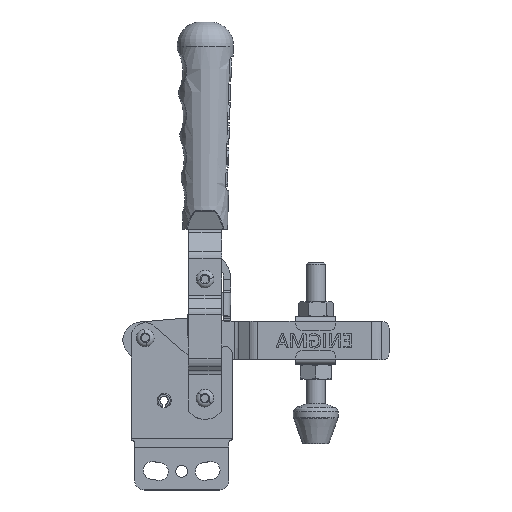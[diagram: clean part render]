
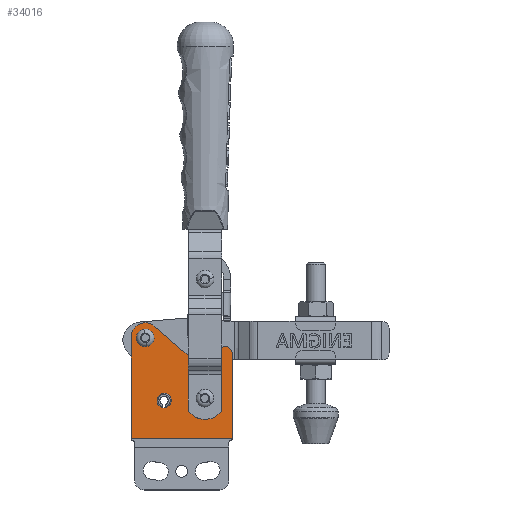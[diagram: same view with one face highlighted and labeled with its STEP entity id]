
A CAD part, top view. The second image highlights one B-rep face of the part: STEP entity #34016.
In plain terms, the highlighted planar face has unit normal (0, 0, 1) as drawn and (0, 0, -1) by its records, which use the part's own axes.
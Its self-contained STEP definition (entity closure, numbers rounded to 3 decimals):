
#286 = ORIENTED_EDGE ( 'NONE', *, *, #31214, .F. ) ;
#407 = DIRECTION ( 'NONE',  ( 1., 0., 0. ) ) ;
#490 = CIRCLE ( 'NONE', #33522, 5. ) ;
#514 = CARTESIAN_POINT ( 'NONE',  ( -36.983, -42.846, 0. ) ) ;
#980 = CIRCLE ( 'NONE', #9149, 3. ) ;
#1157 = DIRECTION ( 'NONE',  ( 1., 0., 0. ) ) ;
#1693 = VERTEX_POINT ( 'NONE', #35627 ) ;
#2179 = ORIENTED_EDGE ( 'NONE', *, *, #23024, .F. ) ;
#2325 = CARTESIAN_POINT ( 'NONE',  ( -25.331, -25.65, 0. ) ) ;
#2378 = DIRECTION ( 'NONE',  ( 0., 1., 0. ) ) ;
#2533 = DIRECTION ( 'NONE',  ( -0.754, -0.657, 0. ) ) ;
#2737 = DIRECTION ( 'NONE',  ( 0., 0., -1. ) ) ;
#3029 = EDGE_CURVE ( 'NONE', #14983, #3087, #490, .T. ) ;
#3087 = VERTEX_POINT ( 'NONE', #18160 ) ;
#3337 = DIRECTION ( 'NONE',  ( 1., 0., 0. ) ) ;
#3400 = LINE ( 'NONE', #38213, #34929 ) ;
#3701 = VECTOR ( 'NONE', #20879, 1000. ) ;
#3758 = PLANE ( 'NONE',  #24876 ) ;
#3978 = FACE_BOUND ( 'NONE', #9574, .T. ) ;
#4136 = CARTESIAN_POINT ( 'NONE',  ( 0., 0.4, 0. ) ) ;
#5079 = CARTESIAN_POINT ( 'NONE',  ( -29.331, -25.65, 0. ) ) ;
#5459 = CIRCLE ( 'NONE', #27645, 4. ) ;
#5481 = DIRECTION ( 'NONE',  ( 1., 0., 0. ) ) ;
#5523 = CARTESIAN_POINT ( 'NONE',  ( -37., -6.619, 0. ) ) ;
#5919 = VERTEX_POINT ( 'NONE', #514 ) ;
#6090 = VERTEX_POINT ( 'NONE', #17991 ) ;
#6427 = ORIENTED_EDGE ( 'NONE', *, *, #15047, .F. ) ;
#7088 = EDGE_CURVE ( 'NONE', #14708, #14983, #37142, .T. ) ;
#7115 = FACE_BOUND ( 'NONE', #20669, .T. ) ;
#7481 = ORIENTED_EDGE ( 'NONE', *, *, #32256, .T. ) ;
#7911 = DIRECTION ( 'NONE',  ( 0., 0., 1. ) ) ;
#8019 = AXIS2_PLACEMENT_3D ( 'NONE', #18089, #37934, #41308 ) ;
#8036 = LINE ( 'NONE', #20664, #3701 ) ;
#8855 = CARTESIAN_POINT ( 'NONE',  ( -26.707, -3.331, 0. ) ) ;
#9001 = DIRECTION ( 'NONE',  ( 1., 0., 0. ) ) ;
#9149 = AXIS2_PLACEMENT_3D ( 'NONE', #12624, #34815, #38399 ) ;
#9268 = CARTESIAN_POINT ( 'NONE',  ( -34., -6.619, 0. ) ) ;
#9409 = EDGE_CURVE ( 'NONE', #25306, #14708, #18543, .T. ) ;
#9574 = EDGE_LOOP ( 'NONE', ( #40581, #21637 ) ) ;
#10230 = CARTESIAN_POINT ( 'NONE',  ( -3.943, 4.922, 0. ) ) ;
#10418 = EDGE_CURVE ( 'NONE', #38473, #22878, #13402, .T. ) ;
#10512 = DIRECTION ( 'NONE',  ( 0., 0., 1. ) ) ;
#10799 = ORIENTED_EDGE ( 'NONE', *, *, #26637, .T. ) ;
#11359 = EDGE_LOOP ( 'NONE', ( #15519, #6427, #14612, #2179, #22628, #41477, #37119, #15024, #20459, #286 ) ) ;
#11720 = VERTEX_POINT ( 'NONE', #41317 ) ;
#12032 = CIRCLE ( 'NONE', #8019, 1. ) ;
#12624 = CARTESIAN_POINT ( 'NONE',  ( -8., -26.631, 0. ) ) ;
#13228 = VECTOR ( 'NONE', #2378, 1000. ) ;
#13309 = CIRCLE ( 'NONE', #32877, 1. ) ;
#13402 = CIRCLE ( 'NONE', #36356, 2.5 ) ;
#13418 = DIRECTION ( 'NONE',  ( 0., 0., 1. ) ) ;
#13618 = VERTEX_POINT ( 'NONE', #5079 ) ;
#13970 = DIRECTION ( 'NONE',  ( 1., 0., 0. ) ) ;
#14205 = AXIS2_PLACEMENT_3D ( 'NONE', #25004, #37924, #9001 ) ;
#14612 = ORIENTED_EDGE ( 'NONE', *, *, #19758, .F. ) ;
#14708 = VERTEX_POINT ( 'NONE', #25749 ) ;
#14791 = DIRECTION ( 'NONE',  ( 1., 0., 0. ) ) ;
#14983 = VERTEX_POINT ( 'NONE', #40054 ) ;
#15024 = ORIENTED_EDGE ( 'NONE', *, *, #36126, .F. ) ;
#15047 = EDGE_CURVE ( 'NONE', #6090, #5919, #12032, .T. ) ;
#15202 = DIRECTION ( 'NONE',  ( 1., 0., 0. ) ) ;
#15519 = ORIENTED_EDGE ( 'NONE', *, *, #29842, .T. ) ;
#16068 = CIRCLE ( 'NONE', #32940, 4. ) ;
#16550 = VECTOR ( 'NONE', #2533, 1000. ) ;
#17090 = CARTESIAN_POINT ( 'NONE',  ( -25.331, -25.65, 0. ) ) ;
#17433 = EDGE_CURVE ( 'NONE', #13618, #37233, #5459, .T. ) ;
#17745 = CARTESIAN_POINT ( 'NONE',  ( -21.331, -25.65, 0. ) ) ;
#17991 = CARTESIAN_POINT ( 'NONE',  ( -37., -42.664, 0. ) ) ;
#18051 = CIRCLE ( 'NONE', #28826, 3. ) ;
#18089 = CARTESIAN_POINT ( 'NONE',  ( -36., -42.664, 0. ) ) ;
#18160 = CARTESIAN_POINT ( 'NONE',  ( -31.265, -5.386, 0. ) ) ;
#18288 = EDGE_CURVE ( 'NONE', #1693, #26937, #38232, .T. ) ;
#18379 = EDGE_LOOP ( 'NONE', ( #23728, #10799 ) ) ;
#18543 = LINE ( 'NONE', #31876, #16550 ) ;
#18777 = DIRECTION ( 'NONE',  ( 0., 0., 1. ) ) ;
#19758 = EDGE_CURVE ( 'NONE', #39912, #6090, #8036, .T. ) ;
#19938 = CARTESIAN_POINT ( 'NONE',  ( 2.5, 0., 0. ) ) ;
#20459 = ORIENTED_EDGE ( 'NONE', *, *, #28463, .F. ) ;
#20664 = CARTESIAN_POINT ( 'NONE',  ( -37., -42.664, 0. ) ) ;
#20669 = EDGE_LOOP ( 'NONE', ( #7481, #27199 ) ) ;
#20879 = DIRECTION ( 'NONE',  ( 0., -1., 0. ) ) ;
#21518 = CARTESIAN_POINT ( 'NONE',  ( 0., 0., 0. ) ) ;
#21637 = ORIENTED_EDGE ( 'NONE', *, *, #22003, .T. ) ;
#21722 = DIRECTION ( 'NONE',  ( 0., 0., 1. ) ) ;
#22003 = EDGE_CURVE ( 'NONE', #22878, #38473, #40930, .T. ) ;
#22628 = ORIENTED_EDGE ( 'NONE', *, *, #3029, .F. ) ;
#22722 = DIRECTION ( 'NONE',  ( 0., 0., 1. ) ) ;
#22878 = VERTEX_POINT ( 'NONE', #36534 ) ;
#23024 = EDGE_CURVE ( 'NONE', #3087, #39912, #18051, .T. ) ;
#23310 = FACE_OUTER_BOUND ( 'NONE', #11359, .T. ) ;
#23728 = ORIENTED_EDGE ( 'NONE', *, *, #18288, .T. ) ;
#23787 = DIRECTION ( 'NONE',  ( 0., 0., 1. ) ) ;
#24690 = LINE ( 'NONE', #37631, #13228 ) ;
#24771 = VERTEX_POINT ( 'NONE', #38235 ) ;
#24876 = AXIS2_PLACEMENT_3D ( 'NONE', #32481, #35628, #33285 ) ;
#25004 = CARTESIAN_POINT ( 'NONE',  ( -23.984, 1.871, 0. ) ) ;
#25072 = DIRECTION ( 'NONE',  ( -1., 0., 0. ) ) ;
#25247 = CARTESIAN_POINT ( 'NONE',  ( 5.983, -42.846, 0. ) ) ;
#25306 = VERTEX_POINT ( 'NONE', #10230 ) ;
#25651 = CARTESIAN_POINT ( 'NONE',  ( 0., 0., 0. ) ) ;
#25749 = CARTESIAN_POINT ( 'NONE',  ( -16.839, -6.323, 0. ) ) ;
#26624 = VERTEX_POINT ( 'NONE', #25247 ) ;
#26637 = EDGE_CURVE ( 'NONE', #26937, #1693, #980, .T. ) ;
#26789 = DIRECTION ( 'NONE',  ( 1., 0., 0. ) ) ;
#26937 = VERTEX_POINT ( 'NONE', #31607 ) ;
#27199 = ORIENTED_EDGE ( 'NONE', *, *, #17433, .T. ) ;
#27645 = AXIS2_PLACEMENT_3D ( 'NONE', #2325, #21722, #15202 ) ;
#28463 = EDGE_CURVE ( 'NONE', #24771, #11720, #24690, .T. ) ;
#28826 = AXIS2_PLACEMENT_3D ( 'NONE', #9268, #22722, #38190 ) ;
#29842 = EDGE_CURVE ( 'NONE', #26624, #5919, #3400, .T. ) ;
#31214 = EDGE_CURVE ( 'NONE', #26624, #24771, #13309, .T. ) ;
#31607 = CARTESIAN_POINT ( 'NONE',  ( -11., -26.631, 0. ) ) ;
#31876 = CARTESIAN_POINT ( 'NONE',  ( -16.839, -6.323, 0. ) ) ;
#32256 = EDGE_CURVE ( 'NONE', #37233, #13618, #16068, .T. ) ;
#32481 = CARTESIAN_POINT ( 'NONE',  ( 5.499, -44.603, 0. ) ) ;
#32850 = AXIS2_PLACEMENT_3D ( 'NONE', #21518, #18777, #14791 ) ;
#32877 = AXIS2_PLACEMENT_3D ( 'NONE', #40499, #39502, #13970 ) ;
#32940 = AXIS2_PLACEMENT_3D ( 'NONE', #17090, #23787, #26789 ) ;
#33285 = DIRECTION ( 'NONE',  ( 1., 0., 0. ) ) ;
#33522 = AXIS2_PLACEMENT_3D ( 'NONE', #8855, #2737, #5481 ) ;
#34016 = ADVANCED_FACE ( 'NONE', ( #23310, #36245, #7115, #3978 ), #3758, .T. ) ;
#34815 = DIRECTION ( 'NONE',  ( 0., 0., 1. ) ) ;
#34929 = VECTOR ( 'NONE', #25072, 1000. ) ;
#35627 = CARTESIAN_POINT ( 'NONE',  ( -5., -26.631, 0. ) ) ;
#35628 = DIRECTION ( 'NONE',  ( 0., 0., -1. ) ) ;
#36126 = EDGE_CURVE ( 'NONE', #11720, #25306, #36418, .T. ) ;
#36245 = FACE_BOUND ( 'NONE', #18379, .T. ) ;
#36356 = AXIS2_PLACEMENT_3D ( 'NONE', #25651, #13418, #3337 ) ;
#36418 = CIRCLE ( 'NONE', #38430, 6. ) ;
#36534 = CARTESIAN_POINT ( 'NONE',  ( -2.5, 0., 0. ) ) ;
#37119 = ORIENTED_EDGE ( 'NONE', *, *, #9409, .F. ) ;
#37142 = CIRCLE ( 'NONE', #14205, 10.872 ) ;
#37233 = VERTEX_POINT ( 'NONE', #17745 ) ;
#37631 = CARTESIAN_POINT ( 'NONE',  ( 6., 0.4, 0. ) ) ;
#37924 = DIRECTION ( 'NONE',  ( 0., 0., -1. ) ) ;
#37934 = DIRECTION ( 'NONE',  ( 0., 0., 1. ) ) ;
#38190 = DIRECTION ( 'NONE',  ( 1., 0., 0. ) ) ;
#38213 = CARTESIAN_POINT ( 'NONE',  ( 5.499, -42.846, 0. ) ) ;
#38232 = CIRCLE ( 'NONE', #40910, 3. ) ;
#38235 = CARTESIAN_POINT ( 'NONE',  ( 6., -42.664, 0. ) ) ;
#38399 = DIRECTION ( 'NONE',  ( 1., 0., 0. ) ) ;
#38430 = AXIS2_PLACEMENT_3D ( 'NONE', #4136, #7911, #1157 ) ;
#38473 = VERTEX_POINT ( 'NONE', #19938 ) ;
#39442 = CARTESIAN_POINT ( 'NONE',  ( -8., -26.631, 0. ) ) ;
#39502 = DIRECTION ( 'NONE',  ( 0., 0., 1. ) ) ;
#39912 = VERTEX_POINT ( 'NONE', #5523 ) ;
#40054 = CARTESIAN_POINT ( 'NONE',  ( -29.026, -7.761, 0. ) ) ;
#40499 = CARTESIAN_POINT ( 'NONE',  ( 5., -42.664, 0. ) ) ;
#40581 = ORIENTED_EDGE ( 'NONE', *, *, #10418, .T. ) ;
#40910 = AXIS2_PLACEMENT_3D ( 'NONE', #39442, #10512, #407 ) ;
#40930 = CIRCLE ( 'NONE', #32850, 2.5 ) ;
#41308 = DIRECTION ( 'NONE',  ( 1., 0., 0. ) ) ;
#41317 = CARTESIAN_POINT ( 'NONE',  ( 6., 0.4, 0. ) ) ;
#41477 = ORIENTED_EDGE ( 'NONE', *, *, #7088, .F. ) ;
